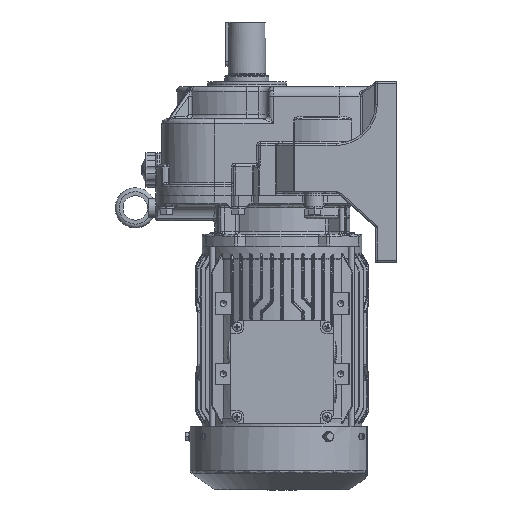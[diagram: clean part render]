
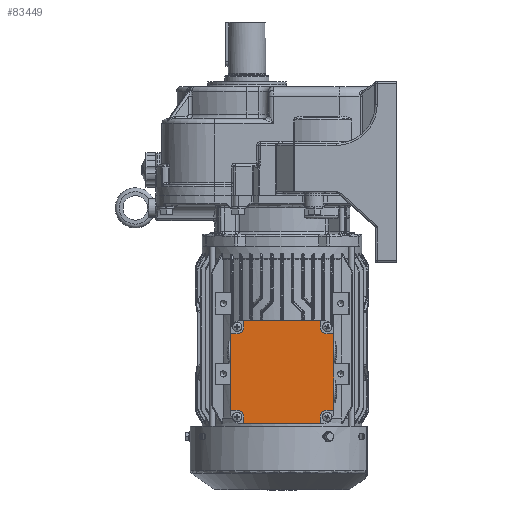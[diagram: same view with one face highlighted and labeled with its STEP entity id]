
A CAD part, left-side view. The second image highlights one B-rep face of the part: STEP entity #83449.
In plain terms, the highlighted planar face has unit normal (-1, 0, 0).
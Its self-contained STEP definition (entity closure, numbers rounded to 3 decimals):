
#4406=PLANE('',#90152);
#8280=CIRCLE('',#90153,7.);
#8281=CIRCLE('',#90154,7.);
#8282=CIRCLE('',#90155,7.);
#8283=CIRCLE('',#90156,7.);
#12113=FACE_OUTER_BOUND('',#17350,.T.);
#17350=EDGE_LOOP('',(#64972,#64973,#64974,#64975,#64976,#64977,#64978,#64979,
#64980,#64981,#64982,#64983,#64984,#64985,#64986,#64987));
#22904=LINE('',#154636,#28792);
#22915=LINE('',#154658,#28803);
#22922=LINE('',#154674,#28810);
#22928=LINE('',#154688,#28816);
#22929=LINE('',#154691,#28817);
#22930=LINE('',#154694,#28818);
#22931=LINE('',#154696,#28819);
#22932=LINE('',#154699,#28820);
#22933=LINE('',#154701,#28821);
#22934=LINE('',#154704,#28822);
#22935=LINE('',#154706,#28823);
#22936=LINE('',#154709,#28824);
#28792=VECTOR('',#105172,1000.);
#28803=VECTOR('',#105189,1000.);
#28810=VECTOR('',#105202,1000.);
#28816=VECTOR('',#105214,1000.);
#28817=VECTOR('',#105217,1000.);
#28818=VECTOR('',#105220,1000.);
#28819=VECTOR('',#105221,1000.);
#28820=VECTOR('',#105224,1000.);
#28821=VECTOR('',#105225,1000.);
#28822=VECTOR('',#105228,1000.);
#28823=VECTOR('',#105229,1000.);
#28824=VECTOR('',#105232,1000.);
#37136=VERTEX_POINT('',#154633);
#37137=VERTEX_POINT('',#154635);
#37142=VERTEX_POINT('',#154649);
#37145=VERTEX_POINT('',#154656);
#37148=VERTEX_POINT('',#154665);
#37151=VERTEX_POINT('',#154672);
#37154=VERTEX_POINT('',#154681);
#37156=VERTEX_POINT('',#154686);
#37157=VERTEX_POINT('',#154690);
#37158=VERTEX_POINT('',#154692);
#37159=VERTEX_POINT('',#154695);
#37160=VERTEX_POINT('',#154697);
#37161=VERTEX_POINT('',#154700);
#37162=VERTEX_POINT('',#154702);
#37163=VERTEX_POINT('',#154705);
#37164=VERTEX_POINT('',#154707);
#47079=EDGE_CURVE('',#37137,#37136,#22904,.T.);
#47091=EDGE_CURVE('',#37142,#37145,#22915,.T.);
#47099=EDGE_CURVE('',#37148,#37151,#22922,.T.);
#47106=EDGE_CURVE('',#37154,#37156,#22928,.T.);
#47107=EDGE_CURVE('',#37157,#37136,#22929,.T.);
#47108=EDGE_CURVE('',#37158,#37157,#8280,.T.);
#47109=EDGE_CURVE('',#37154,#37158,#22930,.T.);
#47110=EDGE_CURVE('',#37159,#37156,#22931,.T.);
#47111=EDGE_CURVE('',#37160,#37159,#8281,.T.);
#47112=EDGE_CURVE('',#37148,#37160,#22932,.T.);
#47113=EDGE_CURVE('',#37161,#37151,#22933,.T.);
#47114=EDGE_CURVE('',#37162,#37161,#8282,.T.);
#47115=EDGE_CURVE('',#37142,#37162,#22934,.T.);
#47116=EDGE_CURVE('',#37163,#37145,#22935,.T.);
#47117=EDGE_CURVE('',#37164,#37163,#8283,.T.);
#47118=EDGE_CURVE('',#37137,#37164,#22936,.T.);
#64972=ORIENTED_EDGE('',*,*,#47107,.F.);
#64973=ORIENTED_EDGE('',*,*,#47108,.F.);
#64974=ORIENTED_EDGE('',*,*,#47109,.F.);
#64975=ORIENTED_EDGE('',*,*,#47106,.T.);
#64976=ORIENTED_EDGE('',*,*,#47110,.F.);
#64977=ORIENTED_EDGE('',*,*,#47111,.F.);
#64978=ORIENTED_EDGE('',*,*,#47112,.F.);
#64979=ORIENTED_EDGE('',*,*,#47099,.T.);
#64980=ORIENTED_EDGE('',*,*,#47113,.F.);
#64981=ORIENTED_EDGE('',*,*,#47114,.F.);
#64982=ORIENTED_EDGE('',*,*,#47115,.F.);
#64983=ORIENTED_EDGE('',*,*,#47091,.T.);
#64984=ORIENTED_EDGE('',*,*,#47116,.F.);
#64985=ORIENTED_EDGE('',*,*,#47117,.F.);
#64986=ORIENTED_EDGE('',*,*,#47118,.F.);
#64987=ORIENTED_EDGE('',*,*,#47079,.T.);
#83449=ADVANCED_FACE('',(#12113),#4406,.T.);
#90152=AXIS2_PLACEMENT_3D('',#154689,#105215,#105216);
#90153=AXIS2_PLACEMENT_3D('',#154693,#105218,#105219);
#90154=AXIS2_PLACEMENT_3D('',#154698,#105222,#105223);
#90155=AXIS2_PLACEMENT_3D('',#154703,#105226,#105227);
#90156=AXIS2_PLACEMENT_3D('',#154708,#105230,#105231);
#105172=DIRECTION('',(0.,0.,1.));
#105189=DIRECTION('',(0.,-1.,0.));
#105202=DIRECTION('',(0.,0.,-1.));
#105214=DIRECTION('',(0.,1.,0.));
#105215=DIRECTION('center_axis',(-1.,0.,0.));
#105216=DIRECTION('ref_axis',(0.,-1.,0.));
#105217=DIRECTION('',(0.,-1.,0.));
#105218=DIRECTION('center_axis',(-1.,0.,0.));
#105219=DIRECTION('ref_axis',(0.,1.,0.));
#105220=DIRECTION('',(0.,0.,-1.));
#105221=DIRECTION('',(0.,0.,1.));
#105222=DIRECTION('center_axis',(-1.,0.,0.));
#105223=DIRECTION('ref_axis',(0.,1.,0.));
#105224=DIRECTION('',(0.,-1.,0.));
#105225=DIRECTION('',(0.,1.,0.));
#105226=DIRECTION('center_axis',(-1.,0.,0.));
#105227=DIRECTION('ref_axis',(0.,1.,0.));
#105228=DIRECTION('',(0.,0.,1.));
#105229=DIRECTION('',(0.,0.,-1.));
#105230=DIRECTION('center_axis',(-1.,0.,0.));
#105231=DIRECTION('ref_axis',(0.,1.,0.));
#105232=DIRECTION('',(0.,1.,0.));
#154633=CARTESIAN_POINT('',(-147.9,64.608,-165.3));
#154635=CARTESIAN_POINT('',(-147.9,64.608,-243.3));
#154636=CARTESIAN_POINT('',(-147.9,64.608,-246.8));
#154649=CARTESIAN_POINT('',(-147.9,156.108,-256.8));
#154656=CARTESIAN_POINT('',(-147.9,78.108,-256.8));
#154658=CARTESIAN_POINT('',(-147.9,159.608,-256.8));
#154665=CARTESIAN_POINT('',(-147.9,169.608,-165.3));
#154672=CARTESIAN_POINT('',(-147.9,169.608,-243.3));
#154674=CARTESIAN_POINT('',(-147.9,169.608,-246.8));
#154681=CARTESIAN_POINT('',(-147.9,78.108,-151.8));
#154686=CARTESIAN_POINT('',(-147.9,156.108,-151.8));
#154688=CARTESIAN_POINT('',(-147.9,159.608,-151.8));
#154689=CARTESIAN_POINT('Origin',(-147.9,74.608,-161.8));
#154690=CARTESIAN_POINT('',(-147.9,71.108,-165.3));
#154691=CARTESIAN_POINT('',(-147.9,64.608,-165.3));
#154692=CARTESIAN_POINT('',(-147.9,78.108,-158.3));
#154693=CARTESIAN_POINT('Origin',(-147.9,71.108,-158.3));
#154694=CARTESIAN_POINT('',(-147.9,78.108,-158.3));
#154695=CARTESIAN_POINT('',(-147.9,156.108,-158.3));
#154696=CARTESIAN_POINT('',(-147.9,156.108,-151.8));
#154697=CARTESIAN_POINT('',(-147.9,163.108,-165.3));
#154698=CARTESIAN_POINT('Origin',(-147.9,163.108,-158.3));
#154699=CARTESIAN_POINT('',(-147.9,163.108,-165.3));
#154700=CARTESIAN_POINT('',(-147.9,163.108,-243.3));
#154701=CARTESIAN_POINT('',(-147.9,169.608,-243.3));
#154702=CARTESIAN_POINT('',(-147.9,156.108,-250.3));
#154703=CARTESIAN_POINT('Origin',(-147.9,163.108,-250.3));
#154704=CARTESIAN_POINT('',(-147.9,156.108,-250.3));
#154705=CARTESIAN_POINT('',(-147.9,78.108,-250.3));
#154706=CARTESIAN_POINT('',(-147.9,78.108,-256.8));
#154707=CARTESIAN_POINT('',(-147.9,71.108,-243.3));
#154708=CARTESIAN_POINT('Origin',(-147.9,71.108,-250.3));
#154709=CARTESIAN_POINT('',(-147.9,71.108,-243.3));
